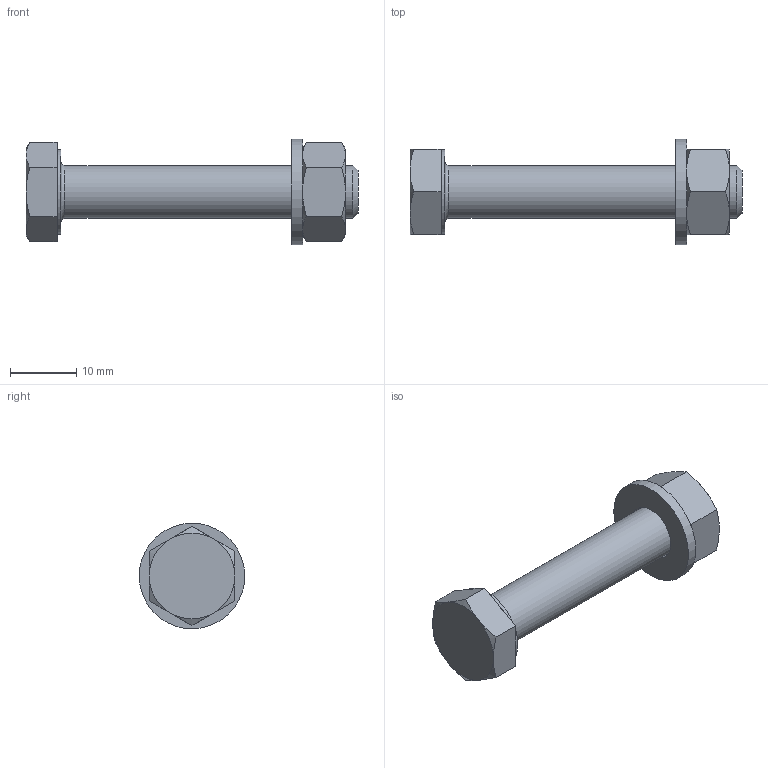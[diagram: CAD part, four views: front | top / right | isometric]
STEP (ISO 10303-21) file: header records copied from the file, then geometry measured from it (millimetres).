
FILE_DESCRIPTION((''),'2;1');
FILE_NAME('W:\13785_CF_Global_Fit_Umsetzung\197_Hexagon_Bolts_with_Nuts\M213-403.stp','2010-09-01T15:14:58',('KAA'),(''),'Autodesk Inventor 2011','Autodesk Inventor 2011','');
FILE_SCHEMA(('AUTOMOTIVE_DESIGN { 1 0 10303 214 1 1 1 1 }'));
Length unit declared in the file: millimetre
Products named in the file (1): 213-403
Bounding box: 50.3 x 15.99 x 15.99 mm (x, y, z)
Volume: 3873.6 mm3; surface area: 2201.5 mm2
Topology: 1 solids, 1 shells, 45 faces, 91 edges, 54 vertices
Faces by surface type: plane 20, cone 19, cylinder 5, torus 1
Full cylindrical faces by diameter (mm): 8 x2, 8.4 x1, 12.88 x1, 16 x1
Entity records: 1168 total; most frequent: CARTESIAN_POINT 256, DIRECTION 170, ORIENTED_EDGE 168, EDGE_CURVE 84, AXIS2_PLACEMENT_3D 76, EDGE_LOOP 58, VERTEX_POINT 54, STYLED_ITEM 46
